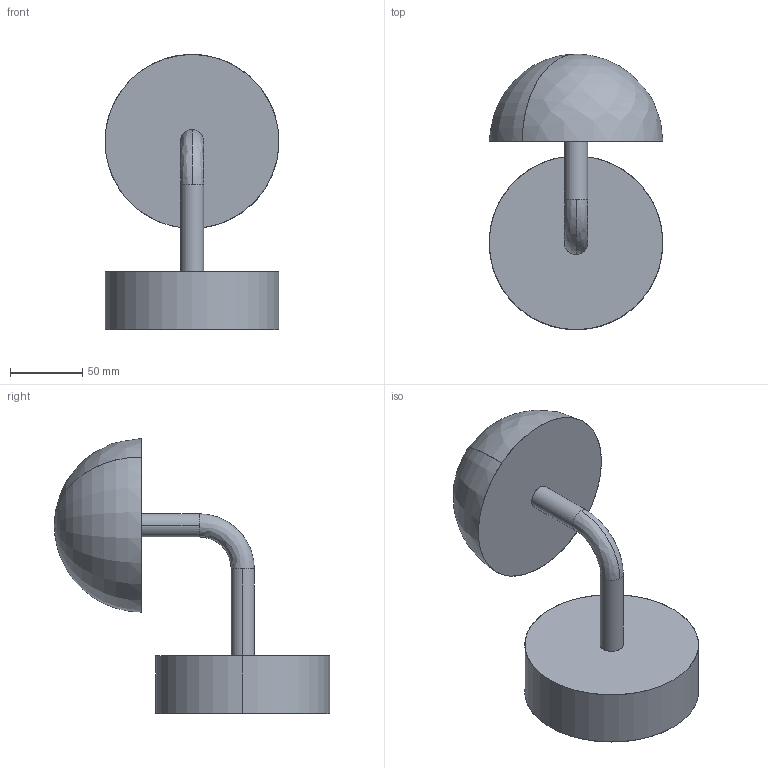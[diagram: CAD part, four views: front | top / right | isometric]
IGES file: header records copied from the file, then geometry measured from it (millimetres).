
Start section: SolidWorks IGES file using analytic representation for surfaces
Global section: file name: C:\Users\adrian\Desktop\MODELADOS USA\DUSSA\AU1307\AU1307_ DUSSA.IGS; native system: SolidWorks 2023; preprocessor: SolidWorks 2023; author: adrian; date: 260605.092124; units: inch
Bounding box: 119.99 x 189.94 x 189.86 mm (x, y, z)
Surface area: 78923.3 mm2 (no closed solid volume)
Topology: 0 solids, 0 shells, 14 faces, 304 edges, 303 vertices
Faces by surface type: revolution 8, bspline 6
